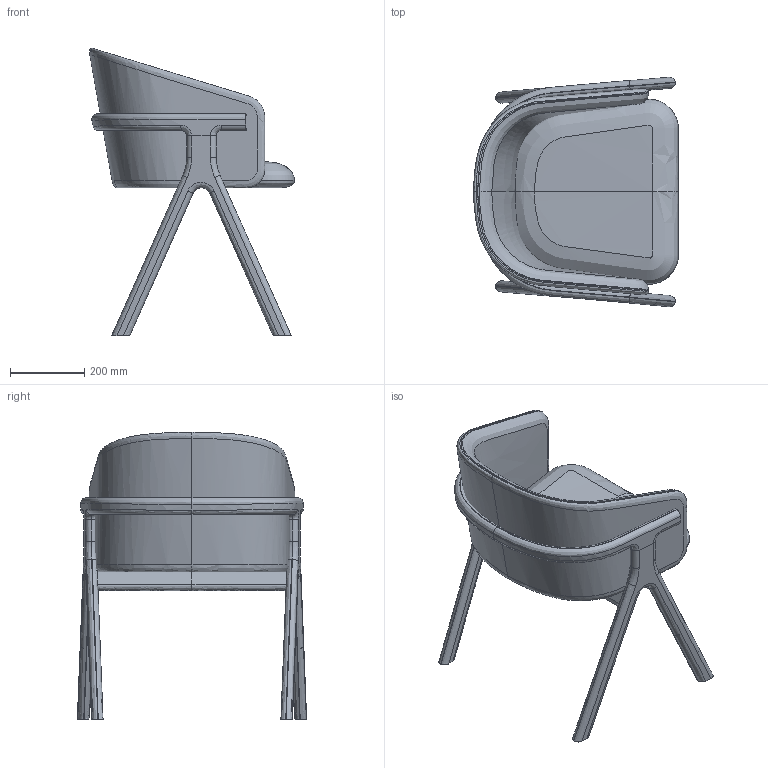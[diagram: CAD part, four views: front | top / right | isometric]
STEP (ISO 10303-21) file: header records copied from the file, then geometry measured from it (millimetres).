
FILE_DESCRIPTION( ('This file contains a STEP AP42 implementation' ,'as created by ZW3D STEP Interface translator.') ,'2;1' );
FILE_NAME( 'EORA-CHAISE.stp' ,'24 915.195343', (''), ('ZWCAD Software Co.'), 'Version 1.0', 'ZW3D to STEP translator', '' );
FILE_SCHEMA(('AUTOMOTIVE_DESIGN { 1 0 10303 214 1 1 1 1 }'));
Length unit declared in the file: millimetre
Products named in the file (2): 0; Delvigne_Fauteuil_Eora_2023.10.17
Bounding box: 553.53 x 619.78 x 777.33 mm (x, y, z)
Volume: 33694365.6 mm3; surface area: 3002554.9 mm2
Topology: 7 solids, 9 shells, 162 faces, 386 edges, 238 vertices
Faces by surface type: bspline 120, plane 42
Entity records: 62414 total; most frequent: CARTESIAN_POINT 59534, ORIENTED_EDGE 756, EDGE_CURVE 386, VERTEX_POINT 238, DIRECTION 217, B_SPLINE_CURVE_WITH_KNOTS 182, EDGE_LOOP 162, FACE_OUTER_BOUND 162
